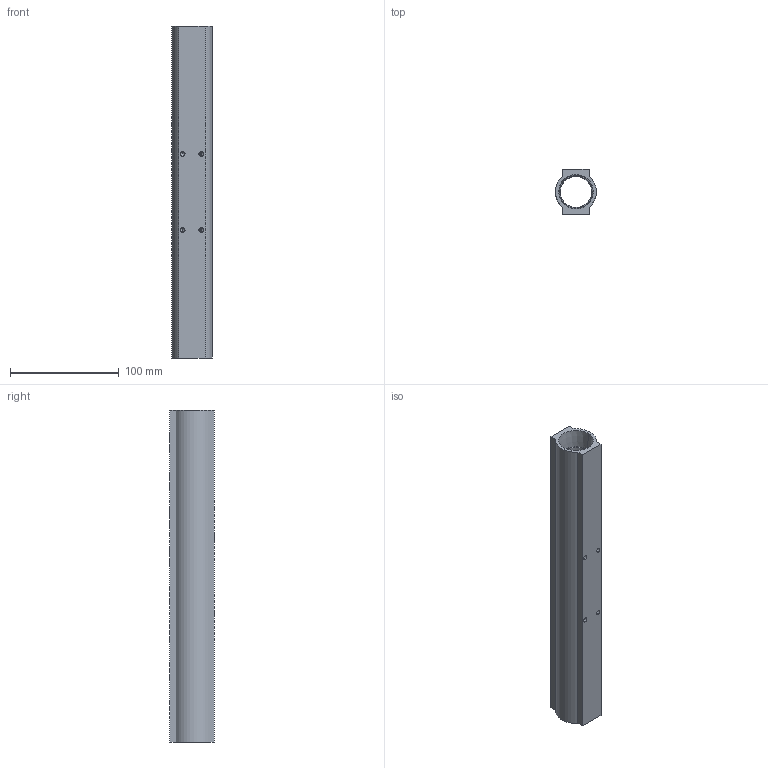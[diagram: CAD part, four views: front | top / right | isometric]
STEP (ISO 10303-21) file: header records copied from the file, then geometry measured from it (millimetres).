
FILE_DESCRIPTION (( 'STEP AP214' ), '1' );
FILE_NAME ('BWM8616B.STEP', '2022-03-15T05:21:33', ( '' ), ( '' ), 'SwSTEP 2.0', 'SolidWorks 2020', '' );
FILE_SCHEMA (( 'AUTOMOTIVE_DESIGN' ));
Length unit declared in the file: millimetre
Products named in the file (1): BWM8616B
Bounding box: 37.44 x 41 x 305 mm (x, y, z)
Volume: 166869.8 mm3; surface area: 71176.4 mm2
Topology: 1 solids, 1 shells, 220 faces, 586 edges, 384 vertices
Faces by surface type: plane 92, bspline 57, cylinder 43, cone 28
Entity records: 12526 total; most frequent: CARTESIAN_POINT 5626, ORIENTED_EDGE 1156, DIRECTION 740, EDGE_CURVE 578, VERTEX_POINT 384, LINE 280, VECTOR 280, EDGE_LOOP 262
